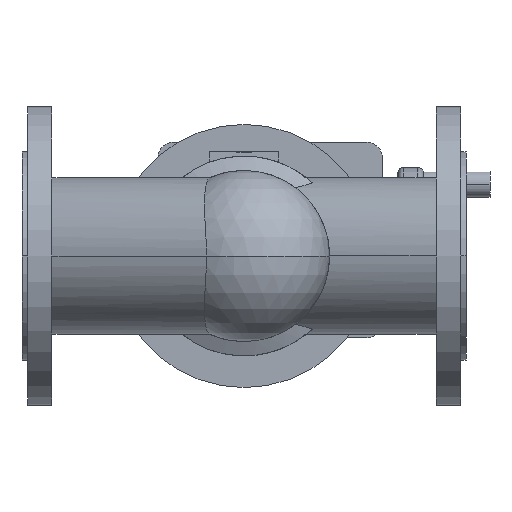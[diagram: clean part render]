
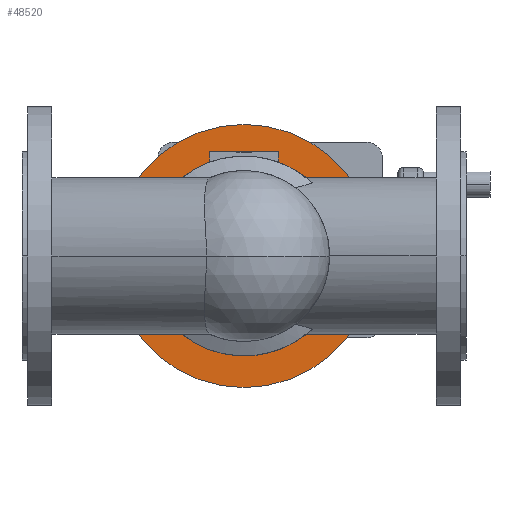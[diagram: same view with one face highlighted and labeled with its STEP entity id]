
A CAD part, front view. The second image highlights one B-rep face of the part: STEP entity #48520.
In plain terms, the highlighted planar face has unit normal (0, -1, 0).
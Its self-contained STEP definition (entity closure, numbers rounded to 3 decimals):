
#1410=CARTESIAN_POINT('',(81.5,114.2,0.));
#1420=VERTEX_POINT('',#1410);
#1470=CARTESIAN_POINT('',(200.,114.2,0.));
#1480=DIRECTION('',(0.,-1.,0.));
#1490=DIRECTION('',(-1.,0.,0.));
#1500=AXIS2_PLACEMENT_3D('',#1470,#1480,#1490);
#1510=CIRCLE('',#1500,118.5);
#1520=CARTESIAN_POINT('',(318.5,114.2,0.));
#1530=VERTEX_POINT('',#1520);
#1540=EDGE_CURVE('',#1420,#1530,#1510,.T.);
#1920=CARTESIAN_POINT('',(110.,114.2,0.));
#1930=VERTEX_POINT('',#1920);
#1960=CARTESIAN_POINT('',(200.,114.2,0.));
#1970=DIRECTION('',(0.,-1.,0.));
#1980=DIRECTION('',(-1.,0.,0.));
#1990=AXIS2_PLACEMENT_3D('',#1960,#1970,#1980);
#2000=CIRCLE('',#1990,90.);
#2010=CARTESIAN_POINT('',(290.,114.2,0.));
#2020=VERTEX_POINT('',#2010);
#2030=EDGE_CURVE('',#2020,#1930,#2000,.T.);
#48370=CARTESIAN_POINT('',(95.75,114.2,0.));
#48380=DIRECTION('',(0.,-1.,0.));
#48390=DIRECTION('',(-1.,0.,0.));
#48400=AXIS2_PLACEMENT_3D('',#48370,#48380,#48390);
#48410=PLANE('',#48400);
#48420=EDGE_CURVE('',#1930,#2020,#2000,.T.);
#48430=ORIENTED_EDGE('',*,*,#48420,.F.);
#48440=ORIENTED_EDGE('',*,*,#2030,.F.);
#48450=EDGE_LOOP('',(#48440,#48430));
#48460=FACE_BOUND('',#48450,.T.);
#48470=ORIENTED_EDGE('',*,*,#1540,.T.);
#48480=EDGE_CURVE('',#1530,#1420,#1510,.T.);
#48490=ORIENTED_EDGE('',*,*,#48480,.T.);
#48500=EDGE_LOOP('',(#48490,#48470));
#48510=FACE_OUTER_BOUND('',#48500,.T.);
#48520=ADVANCED_FACE('',(#48460,#48510),#48410,.T.);
